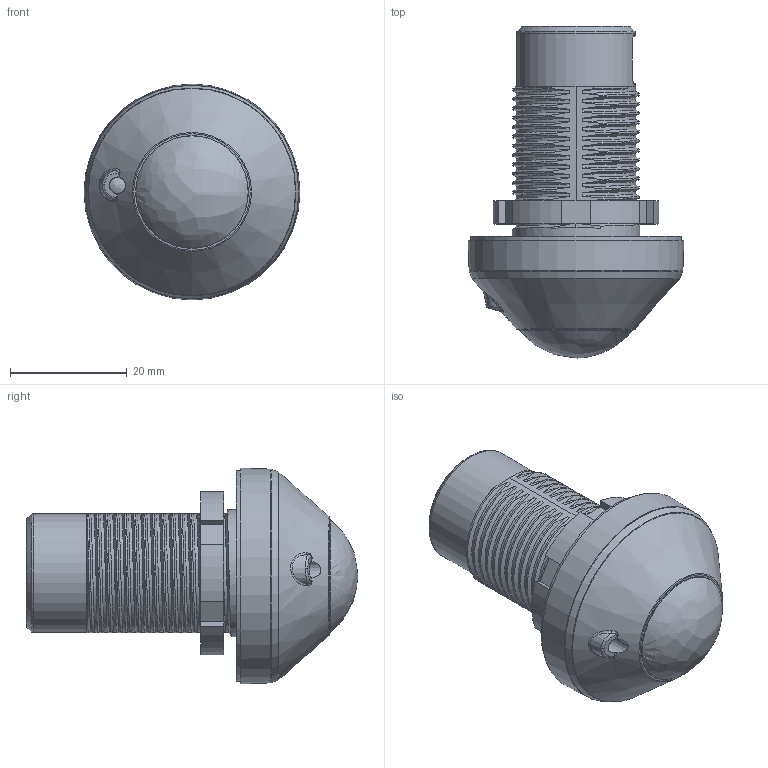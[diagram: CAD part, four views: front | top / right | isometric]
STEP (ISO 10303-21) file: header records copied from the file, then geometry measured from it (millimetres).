
FILE_DESCRIPTION (( 'STEP AP203' ), '1' );
FILE_NAME ('9C1-4552238-000-00.STP', '2025-10-30T11:52:19', ( '' ), ( '' ), 'SwSTEP 2.0', 'SolidWorks 2023', '' );
FILE_SCHEMA (( 'CONFIG_CONTROL_DESIGN' ));
Length unit declared in the file: millimetre
Products named in the file (1): 9C1-4552238-000-00
Bounding box: 36.99 x 56.86 x 36.99 mm (x, y, z)
Volume: 26529.9 mm3; surface area: 7565.3 mm2
Topology: 2 solids, 3 shells, 295 faces, 866 edges, 583 vertices
Faces by surface type: plane 98, bspline 95, cylinder 82, cone 20
Full cylindrical faces by diameter (mm): 20.36 x1, 21.8 x1, 22.6 x1
Entity records: 24251 total; most frequent: CARTESIAN_POINT 17668, ORIENTED_EDGE 1680, EDGE_CURVE 840, DIRECTION 800, VERTEX_POINT 576, B_SPLINE_CURVE_WITH_KNOTS 476, EDGE_LOOP 322, FACE_OUTER_BOUND 303
